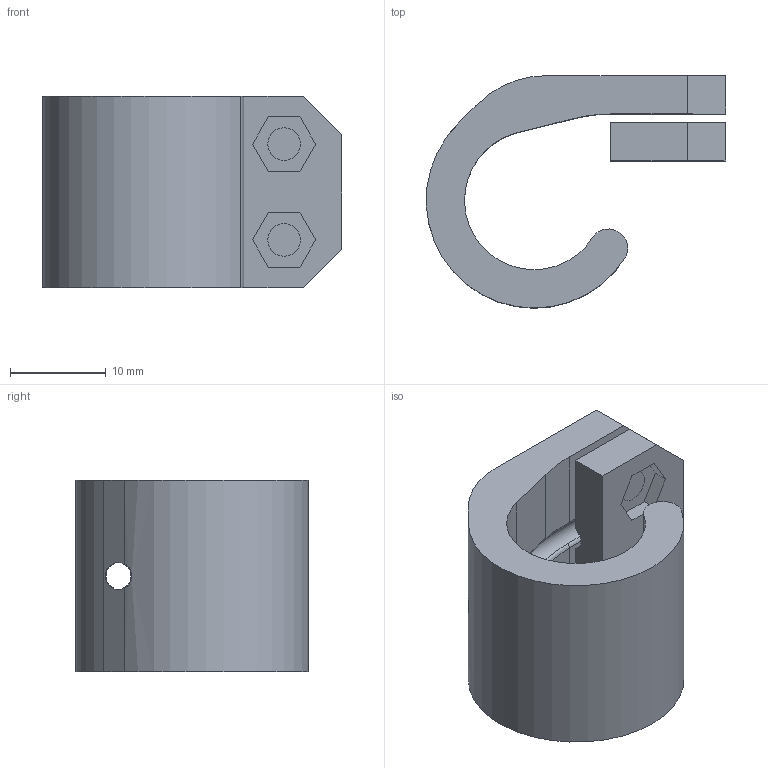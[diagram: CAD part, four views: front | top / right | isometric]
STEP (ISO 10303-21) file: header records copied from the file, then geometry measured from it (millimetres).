
FILE_DESCRIPTION(/* description */ (''),/* implementation_level */ '2;1');
FILE_NAME(/* name */ 'C:\Users\Johannes\Desktop\Heimwerken\OC\Wäscheständer\ASM.stp',/* time_stamp */ '2021-05-14T22:19:22+02:00',/* author */ ('Johannes'),/* organization */ (''),/* preprocessor_version */ 'ST-DEVELOPER v18',/* originating_system */ 'Autodesk Inventor 2020',/* authorisation */ '');
FILE_SCHEMA (('AUTOMOTIVE_DESIGN { 1 0 10303 214 3 1 1 }'));
Length unit declared in the file: millimetre
Products named in the file (1): Bot
Bounding box: 31.23 x 24.25 x 20 mm (x, y, z)
Volume: 5449.4 mm3; surface area: 3966.2 mm2
Topology: 4 solids, 4 shells, 74 faces, 186 edges, 122 vertices
Faces by surface type: plane 40, cylinder 23, bspline 7, sphere 2, torus 2
Full cylindrical faces by diameter (mm): 2.8 x1, 3.4 x6, 6.5 x2
Entity records: 2536 total; most frequent: CARTESIAN_POINT 675, DIRECTION 378, ORIENTED_EDGE 372, EDGE_CURVE 186, AXIS2_PLACEMENT_3D 135, VERTEX_POINT 122, LINE 108, VECTOR 108
